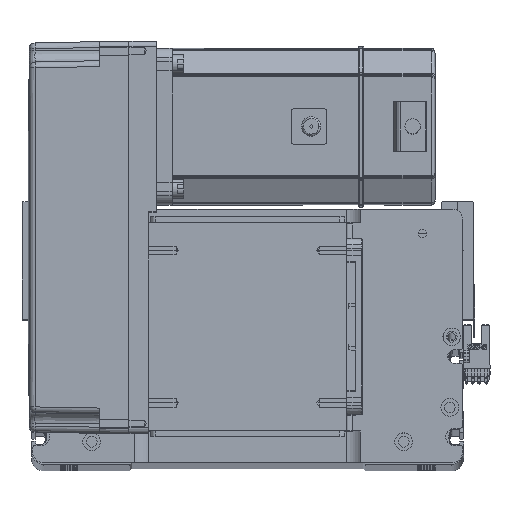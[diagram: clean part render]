
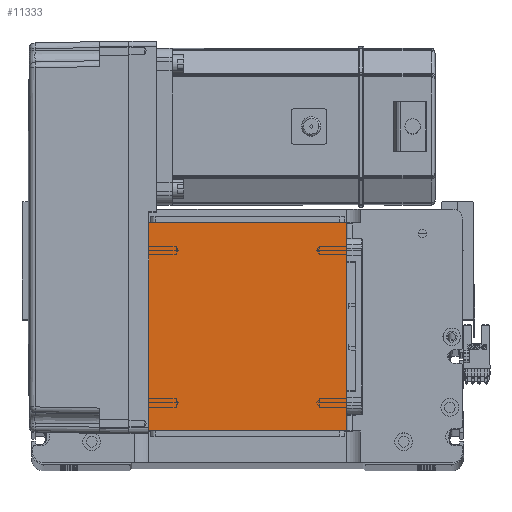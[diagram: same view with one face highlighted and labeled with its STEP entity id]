
A CAD part, top view. The second image highlights one B-rep face of the part: STEP entity #11333.
In plain terms, the highlighted planar face has unit normal (0, 0, 1).
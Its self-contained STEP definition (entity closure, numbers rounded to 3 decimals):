
#848 = ORIENTED_EDGE ( 'NONE', *, *, #46407, .T. ) ;
#1937 = VERTEX_POINT ( 'NONE', #35152 ) ;
#3053 = VECTOR ( 'NONE', #45137, 1000. ) ;
#4123 = CARTESIAN_POINT ( 'NONE',  ( -50.5, 122., 115. ) ) ;
#5585 = VECTOR ( 'NONE', #16631, 1000. ) ;
#6435 = LINE ( 'NONE', #35521, #44861 ) ;
#8650 = LINE ( 'NONE', #31893, #15211 ) ;
#8695 = CARTESIAN_POINT ( 'NONE',  ( 0., 0., 115. ) ) ;
#10201 = EDGE_CURVE ( 'NONE', #30330, #1937, #47420, .T. ) ;
#11333 = ADVANCED_FACE ( 'NONE', ( #16794 ), #42250, .T. ) ;
#11391 = ORIENTED_EDGE ( 'NONE', *, *, #13671, .T. ) ;
#13671 = EDGE_CURVE ( 'NONE', #35112, #30330, #6435, .T. ) ;
#14759 = EDGE_LOOP ( 'NONE', ( #30016, #11391, #18303, #848 ) ) ;
#15211 = VECTOR ( 'NONE', #40629, 1000. ) ;
#16631 = DIRECTION ( 'NONE',  ( -1., 0., 0. ) ) ;
#16755 = DIRECTION ( 'NONE',  ( 1., 0., 0. ) ) ;
#16794 = FACE_OUTER_BOUND ( 'NONE', #14759, .T. ) ;
#18303 = ORIENTED_EDGE ( 'NONE', *, *, #10201, .T. ) ;
#21668 = EDGE_CURVE ( 'NONE', #48803, #35112, #8650, .T. ) ;
#28448 = CARTESIAN_POINT ( 'NONE',  ( -50.5, 16., 115. ) ) ;
#29584 = CARTESIAN_POINT ( 'NONE',  ( -50.5, 122., 115. ) ) ;
#30016 = ORIENTED_EDGE ( 'NONE', *, *, #21668, .T. ) ;
#30330 = VERTEX_POINT ( 'NONE', #33357 ) ;
#31893 = CARTESIAN_POINT ( 'NONE',  ( -50.5, 122., 115. ) ) ;
#33357 = CARTESIAN_POINT ( 'NONE',  ( 50.5, 16., 115. ) ) ;
#35112 = VERTEX_POINT ( 'NONE', #28448 ) ;
#35152 = CARTESIAN_POINT ( 'NONE',  ( 50.5, 122., 115. ) ) ;
#35521 = CARTESIAN_POINT ( 'NONE',  ( -50.5, 16., 115. ) ) ;
#38059 = LINE ( 'NONE', #4123, #5585 ) ;
#38536 = AXIS2_PLACEMENT_3D ( 'NONE', #8695, #50349, #16755 ) ;
#40629 = DIRECTION ( 'NONE',  ( 0., -1., 0. ) ) ;
#42250 = PLANE ( 'NONE',  #38536 ) ;
#44861 = VECTOR ( 'NONE', #47923, 1000. ) ;
#45137 = DIRECTION ( 'NONE',  ( 0., 1., 0. ) ) ;
#46407 = EDGE_CURVE ( 'NONE', #1937, #48803, #38059, .T. ) ;
#47420 = LINE ( 'NONE', #49191, #3053 ) ;
#47923 = DIRECTION ( 'NONE',  ( 1., 0., 0. ) ) ;
#48803 = VERTEX_POINT ( 'NONE', #29584 ) ;
#49191 = CARTESIAN_POINT ( 'NONE',  ( 50.5, 122., 115. ) ) ;
#50349 = DIRECTION ( 'NONE',  ( 0., 0., 1. ) ) ;
